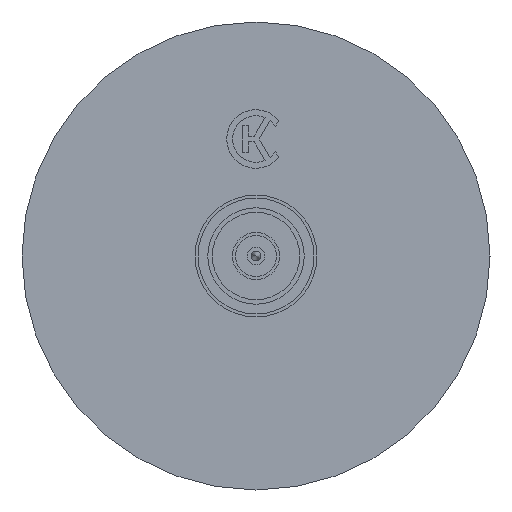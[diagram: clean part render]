
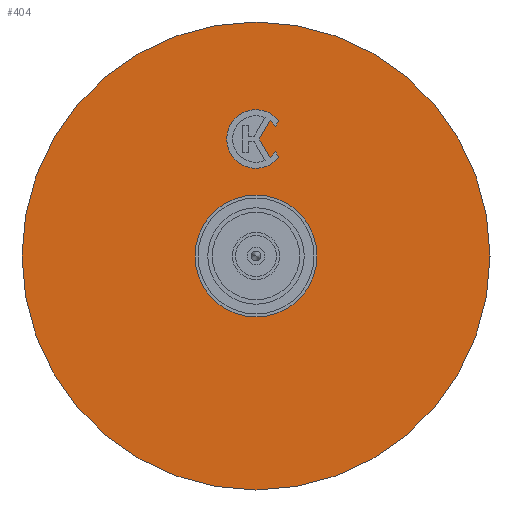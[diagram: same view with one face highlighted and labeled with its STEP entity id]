
A CAD part, left-side view. The second image highlights one B-rep face of the part: STEP entity #404.
In plain terms, the highlighted planar face has unit normal (-1, 0, 0).
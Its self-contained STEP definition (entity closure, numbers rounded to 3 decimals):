
#404=ADVANCED_FACE('',(#1758,#1760,#1762),#1764,.T.);
#1758=FACE_BOUND('',#1759,.T.);
#1759=EDGE_LOOP('',(#3008));
#1760=FACE_BOUND('',#1761,.T.);
#1761=EDGE_LOOP('',(#3009,#3010,#3011,#3012,#3013,#3014,#3015));
#1762=FACE_BOUND('',#1763,.T.);
#1763=EDGE_LOOP('',(#3016));
#1764=PLANE('',#1765);
#1765=AXIS2_PLACEMENT_3D('',#1766,#1767,#1768);
#1766=CARTESIAN_POINT('',(-30.15,0.,0.));
#1767=DIRECTION('',(-1.,0.,0.));
#1768=DIRECTION('',(0.,-1.,0.));
#3008=ORIENTED_EDGE('',*,*,#3444,.T.);
#3009=ORIENTED_EDGE('',*,*,#3445,.T.);
#3010=ORIENTED_EDGE('',*,*,#3446,.T.);
#3011=ORIENTED_EDGE('',*,*,#3447,.T.);
#3012=ORIENTED_EDGE('',*,*,#3448,.T.);
#3013=ORIENTED_EDGE('',*,*,#3449,.T.);
#3014=ORIENTED_EDGE('',*,*,#3450,.T.);
#3015=ORIENTED_EDGE('',*,*,#3451,.T.);
#3016=ORIENTED_EDGE('',*,*,#3452,.T.);
#3444=EDGE_CURVE('',#3698,#3698,#3699,.T.);
#3445=EDGE_CURVE('',#3700,#3701,#3702,.F.);
#3446=EDGE_CURVE('',#3701,#3703,#3704,.F.);
#3447=EDGE_CURVE('',#3703,#3705,#3706,.F.);
#3448=EDGE_CURVE('',#3705,#3707,#3708,.F.);
#3449=EDGE_CURVE('',#3707,#3709,#3710,.F.);
#3450=EDGE_CURVE('',#3709,#3711,#3712,.F.);
#3451=EDGE_CURVE('',#3711,#3700,#3713,.F.);
#3452=EDGE_CURVE('',#3714,#3714,#3715,.F.);
#3698=VERTEX_POINT('',#4189);
#3699=CIRCLE('',#4190,40.);
#3700=VERTEX_POINT('',#4194);
#3701=VERTEX_POINT('',#4195);
#3702=CIRCLE('',#4196,4.);
#3703=VERTEX_POINT('',#4200);
#3704=LINE('',#4201,#4202);
#3705=VERTEX_POINT('',#4204);
#3706=CIRCLE('',#4205,5.);
#3707=VERTEX_POINT('',#4209);
#3708=LINE('',#4210,#4211);
#3709=VERTEX_POINT('',#4213);
#3710=CIRCLE('',#4214,4.);
#3711=VERTEX_POINT('',#4218);
#3712=LINE('',#4219,#4220);
#3713=LINE('',#4222,#4223);
#3714=VERTEX_POINT('',#4225);
#3715=CIRCLE('',#4226,8.);
#4189=CARTESIAN_POINT('',(-30.15,-40.,0.));
#4190=AXIS2_PLACEMENT_3D('',#4191,#4192,#4193);
#4191=CARTESIAN_POINT('',(-30.15,0.,0.));
#4192=DIRECTION('',(-1.,0.,0.));
#4193=DIRECTION('',(0.,-1.,0.));
#4194=CARTESIAN_POINT('',(-30.15,-16.813,-2.417));
#4195=CARTESIAN_POINT('',(-30.15,-17.806,-3.345));
#4196=AXIS2_PLACEMENT_3D('',#4197,#4198,#4199);
#4197=CARTESIAN_POINT('',(-30.15,-20.,0.));
#4198=DIRECTION('',(1.,0.,0.));
#4199=DIRECTION('',(0.,0.548,-0.836));
#4200=CARTESIAN_POINT('',(-30.15,-16.86,-3.891));
#4201=CARTESIAN_POINT('',(-30.15,-16.86,-3.891));
#4202=VECTOR('',#4203,1.);
#4203=DIRECTION('',(0.,-0.866,0.5));
#4204=CARTESIAN_POINT('',(-30.15,-23.14,-3.891));
#4205=AXIS2_PLACEMENT_3D('',#4206,#4207,#4208);
#4206=CARTESIAN_POINT('',(-30.15,-20.,0.));
#4207=DIRECTION('',(-1.,0.,0.));
#4208=DIRECTION('',(0.,-0.628,-0.778));
#4209=CARTESIAN_POINT('',(-30.15,-22.194,-3.345));
#4210=CARTESIAN_POINT('',(-30.15,-22.194,-3.345));
#4211=VECTOR('',#4212,1.);
#4212=DIRECTION('',(0.,-0.866,-0.5));
#4213=CARTESIAN_POINT('',(-30.15,-23.187,-2.417));
#4214=AXIS2_PLACEMENT_3D('',#4215,#4216,#4217);
#4215=CARTESIAN_POINT('',(-30.15,-20.,0.));
#4216=DIRECTION('',(1.,0.,0.));
#4217=DIRECTION('',(0.,-0.797,-0.604));
#4218=CARTESIAN_POINT('',(-30.15,-20.,-0.577));
#4219=CARTESIAN_POINT('',(-30.15,-20.,-0.577));
#4220=VECTOR('',#4221,1.);
#4221=DIRECTION('',(0.,-0.866,-0.5));
#4222=CARTESIAN_POINT('',(-30.15,-16.813,-2.417));
#4223=VECTOR('',#4224,1.);
#4224=DIRECTION('',(0.,-0.866,0.5));
#4225=CARTESIAN_POINT('',(-30.15,0.,-8.));
#4226=AXIS2_PLACEMENT_3D('',#4227,#4228,#4229);
#4227=CARTESIAN_POINT('',(-30.15,0.,0.));
#4228=DIRECTION('',(-1.,0.,0.));
#4229=DIRECTION('',(0.,0.,-1.));
